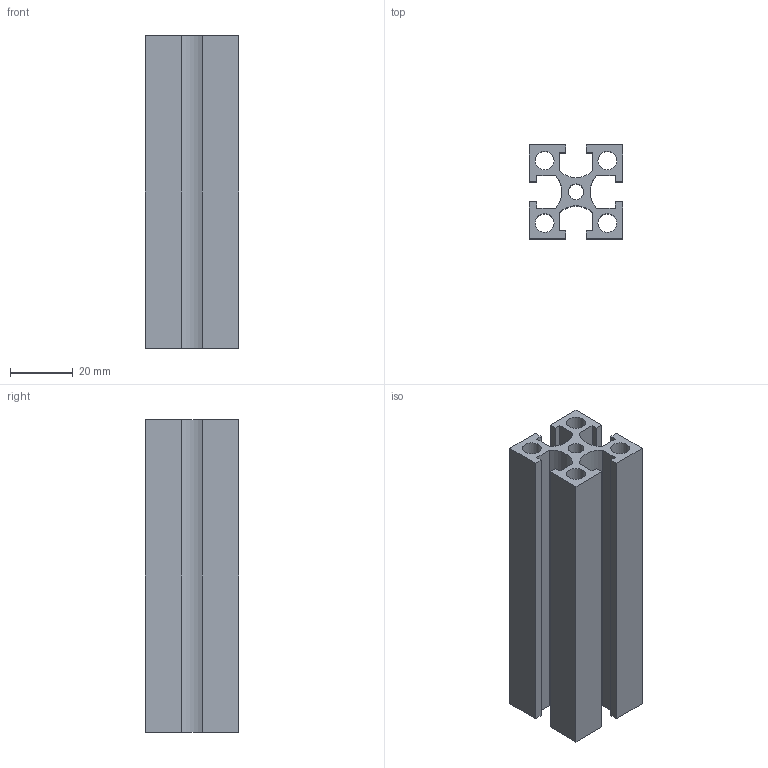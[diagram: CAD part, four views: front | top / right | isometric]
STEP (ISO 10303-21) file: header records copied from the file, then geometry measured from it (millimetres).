
FILE_DESCRIPTION(/* description */ ('Unknown'),/* implementation_level */ '2;1');
FILE_NAME(/* name */ 'NM3030',/* time_stamp */ '2026-08-31T11:12:05+08:00',/* author */ ('Unknown'),/* organization */ ('Unknown'),/* preprocessor_version */ 'ST-DEVELOPER v16.7',/* originating_system */ 'DEX',/* authorisation */ $);
FILE_SCHEMA (('AUTOMOTIVE_DESIGN {1 0 10303 214 3 1 1}'));
Length unit declared in the file: millimetre
Products named in the file (1): 3030-
Bounding box: 30 x 30 x 100 mm (x, y, z)
Volume: 39432.6 mm3; surface area: 32236.5 mm2
Topology: 1 solids, 1 shells, 43 faces, 123 edges, 82 vertices
Faces by surface type: plane 34, cylinder 9
Full cylindrical faces by diameter (mm): 5 x1, 6 x4
Entity records: 1420 total; most frequent: CARTESIAN_POINT 244, ORIENTED_EDGE 236, DIRECTION 224, EDGE_CURVE 118, LINE 100, VECTOR 100, VERTEX_POINT 82, AXIS2_PLACEMENT_3D 62
